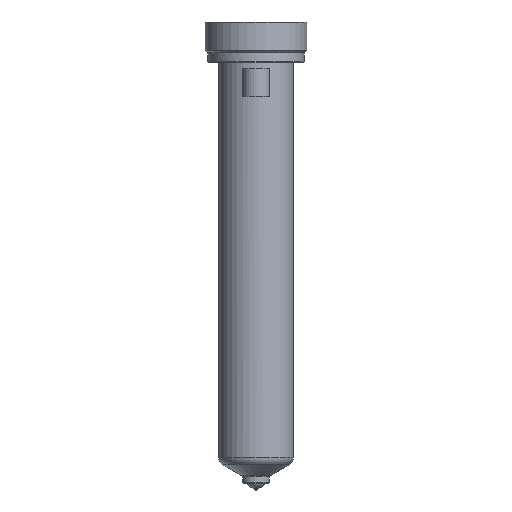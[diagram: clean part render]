
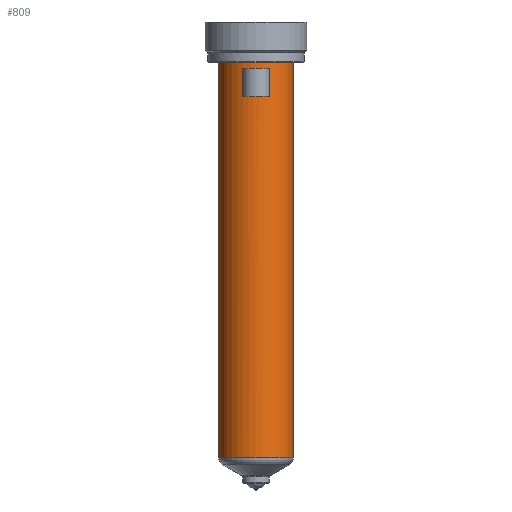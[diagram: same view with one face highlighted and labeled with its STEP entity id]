
A CAD part, top view. The second image highlights one B-rep face of the part: STEP entity #809.
In plain terms, the highlighted cylindrical face has radius 14 mm (diameter 28 mm), a partial arc.
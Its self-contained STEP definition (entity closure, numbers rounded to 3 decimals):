
#195=DIRECTION('',(0.,-1.,0.));
#196=VECTOR('',#195,147.893);
#197=CARTESIAN_POINT('',(14.,0.,0.));
#198=LINE('',#197,#196);
#199=CARTESIAN_POINT('',(0.,-147.893,0.));
#200=DIRECTION('',(0.,1.,0.));
#201=DIRECTION('',(-1.,0.,0.));
#202=AXIS2_PLACEMENT_3D('',#199,#200,#201);
#204=DIRECTION('',(0.,1.,0.));
#205=VECTOR('',#204,147.893);
#206=CARTESIAN_POINT('',(-14.,-147.893,0.));
#207=LINE('',#206,#205);
#208=CARTESIAN_POINT('',(0.,0.,0.));
#209=DIRECTION('',(0.,1.,0.));
#210=DIRECTION('',(-1.,0.,0.));
#211=AXIS2_PLACEMENT_3D('',#208,#209,#210);
#375=DIRECTION('',(0.,-1.,0.));
#376=VECTOR('',#375,10.5);
#377=CARTESIAN_POINT('',(-5.,-2.5,13.077));
#378=LINE('',#377,#376);
#383=CARTESIAN_POINT('',(0.,-13.,0.));
#384=DIRECTION('',(0.,1.,0.));
#385=DIRECTION('',(-0.357,0.,0.934));
#386=AXIS2_PLACEMENT_3D('',#383,#384,#385);
#418=CARTESIAN_POINT('',(0.,-2.5,0.));
#419=DIRECTION('',(0.,-1.,0.));
#420=DIRECTION('',(0.357,0.,0.934));
#421=AXIS2_PLACEMENT_3D('',#418,#419,#420);
#423=DIRECTION('',(0.,-1.,0.));
#424=VECTOR('',#423,10.5);
#425=CARTESIAN_POINT('',(5.,-2.5,13.077));
#426=LINE('',#425,#424);
#484=CARTESIAN_POINT('',(-14.,0.,0.));
#485=CARTESIAN_POINT('',(14.,0.,0.));
#486=VERTEX_POINT('',#484);
#487=VERTEX_POINT('',#485);
#496=CARTESIAN_POINT('',(5.,-2.5,13.077));
#497=VERTEX_POINT('',#496);
#498=CARTESIAN_POINT('',(-5.,-2.5,13.077));
#499=VERTEX_POINT('',#498);
#536=CARTESIAN_POINT('',(14.,-147.893,0.));
#537=VERTEX_POINT('',#536);
#546=CARTESIAN_POINT('',(-14.,-147.893,0.));
#547=VERTEX_POINT('',#546);
#568=CARTESIAN_POINT('',(-5.,-13.,13.077));
#569=CARTESIAN_POINT('',(5.,-13.,13.077));
#570=VERTEX_POINT('',#568);
#571=VERTEX_POINT('',#569);
#787=CARTESIAN_POINT('',(0.,16.4,0.));
#788=DIRECTION('',(0.,-1.,0.));
#789=DIRECTION('',(-1.,0.,0.));
#790=AXIS2_PLACEMENT_3D('',#787,#788,#789);
#791=CYLINDRICAL_SURFACE('',#790,14.);
#792=ORIENTED_EDGE('',*,*,#781,.T.);
#794=ORIENTED_EDGE('',*,*,#793,.F.);
#795=ORIENTED_EDGE('',*,*,#777,.T.);
#796=ORIENTED_EDGE('',*,*,#767,.T.);
#797=EDGE_LOOP('',(#792,#794,#795,#796));
#798=FACE_OUTER_BOUND('',#797,.F.);
#800=ORIENTED_EDGE('',*,*,#799,.T.);
#802=ORIENTED_EDGE('',*,*,#801,.T.);
#804=ORIENTED_EDGE('',*,*,#803,.F.);
#806=ORIENTED_EDGE('',*,*,#805,.T.);
#807=EDGE_LOOP('',(#800,#802,#804,#806));
#808=FACE_BOUND('',#807,.F.);
#809=ADVANCED_FACE('',(#798,#808),#791,.T.);
#203=CIRCLE('',#202,14.);
#212=CIRCLE('',#211,14.);
#387=CIRCLE('',#386,14.);
#422=CIRCLE('',#421,14.);
#767=EDGE_CURVE('',#486,#487,#212,.T.);
#777=EDGE_CURVE('',#547,#486,#207,.T.);
#781=EDGE_CURVE('',#487,#537,#198,.T.);
#793=EDGE_CURVE('',#547,#537,#203,.T.);
#799=EDGE_CURVE('',#499,#570,#378,.T.);
#801=EDGE_CURVE('',#570,#571,#387,.T.);
#803=EDGE_CURVE('',#497,#571,#426,.T.);
#805=EDGE_CURVE('',#497,#499,#422,.T.);
